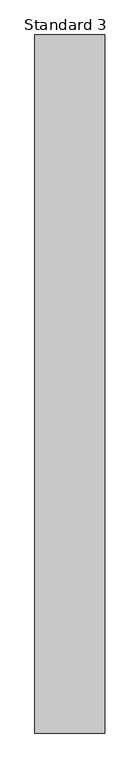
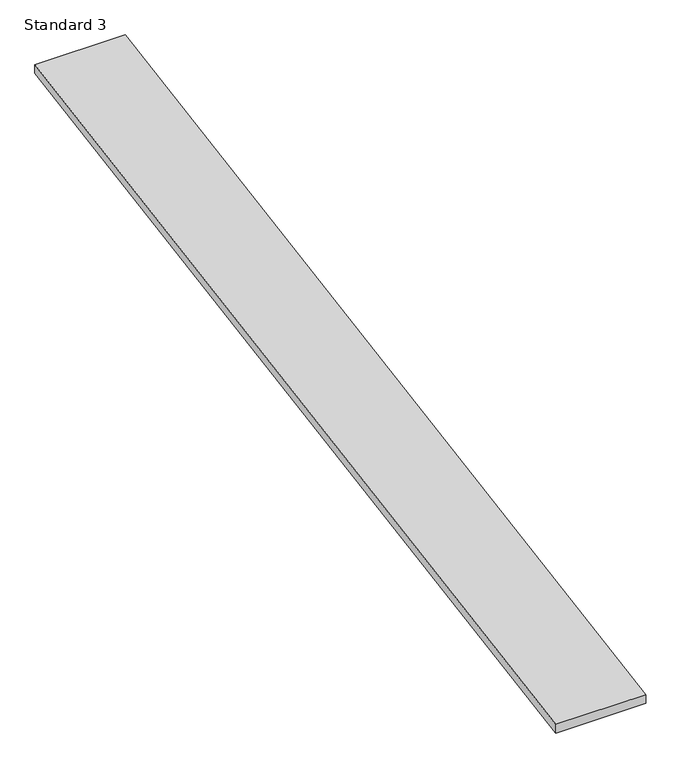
"""IFC4 building model written with IfcOpenShell, lengths in millimetres: ramp geometry, Standard 3."""

from ifc_helpers import new_model, si_unit, frame, origin, place, context, project, spatial, polyline, outline, extrude, source, transform, mapped, element, save


def standard_3_bb9b2080(model_context):
    return source(origin(), model_context, "Body", "SweptSolid", [
        extrude(outline(polyline([(11291.1254445, 6300.0), (26292.1681881, 8800.0), (26292.1681881, 8647.9312224), (11291.1254445, 6147.9312224), (11291.1254445, 6300.0)])), frame((-13343.1675533, 0.0, 0.0), z_axis=(1.0, 0.0, 0.0), x_axis=(0.0, 1.0, 0.0)), (0.0, 0.0, 1.0), 1500.0),
    ])


if __name__ == "__main__":
    model = new_model("IFC4")
    model_context = context("Model", 3, world=origin())
    ifc_project = project(units=[si_unit("LENGTHUNIT", "METRE", prefix="MILLI")], contexts=[model_context])
    site = spatial("IfcSite", under=ifc_project)
    building = spatial("IfcBuilding", under=site)
    placement = place(None, origin())
    standard_3_shape = standard_3_bb9b2080(model_context)
    element("IfcRamp", 1, ObjectType="Standard 3", at=placement, inside=building, context=model_context, shape_type="MappedRepresentation", body=[
        mapped(standard_3_shape, transform((0.0, 0.0, 0.0), x_axis=(1.0, 0.0, 0.0), y_axis=(0.0, 1.0, 0.0), z_axis=(0.0, 0.0, 1.0))),
    ])
    save(model, "model.ifc")
